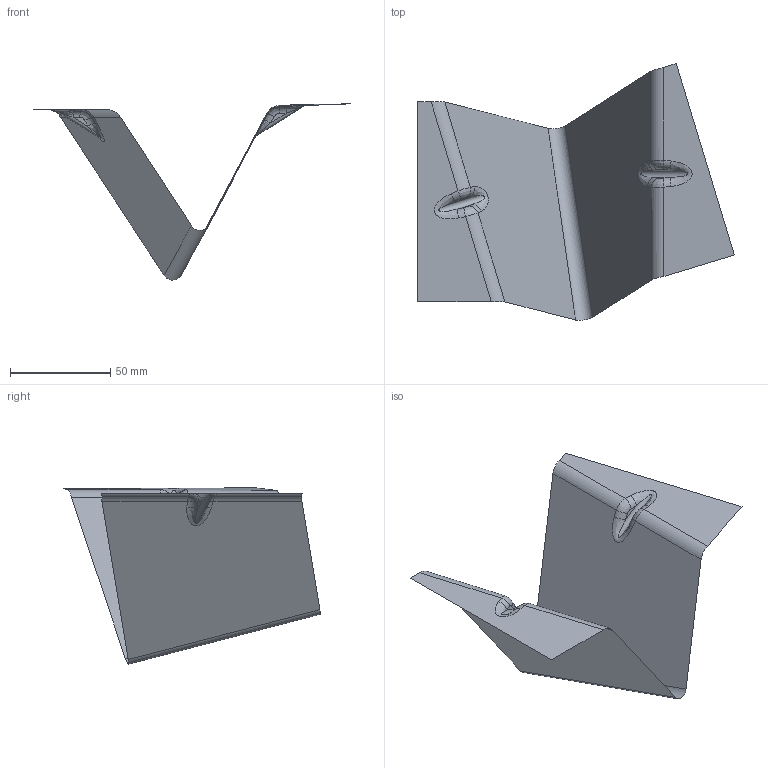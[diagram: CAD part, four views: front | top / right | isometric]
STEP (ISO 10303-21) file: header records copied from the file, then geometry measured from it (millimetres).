
FILE_DESCRIPTION(('CATIA V5 STEP Exchange'),'2;1');
FILE_NAME('C:\_Andres\UNIVERSIDAD\IQS\ASIGNATURAS\DAO\EXF\EXF-16172c\2inicio\Homs_Ruano_Ej03_v15.stp','2017-03-05T19:32:17+00:00',('none'),('none'),'CATIA Version 5-6 Release 2014 SP1 HF18','CATIA V5 STEP AP203','none');
FILE_SCHEMA(('CONFIG_CONTROL_DESIGN'));
Length unit declared in the file: millimetre
Products named in the file (1): Homs_Ruano_Ej03_v15
Bounding box: 158.23 x 128.29 x 88.18 mm (x, y, z)
Surface area: 23305.4 mm2 (no closed solid volume)
Topology: 0 solids, 1 shells, 31 faces, 78 edges, 48 vertices
Faces by surface type: cylinder 15, plane 8, bspline 8
Entity records: 2473 total; most frequent: CARTESIAN_POINT 1800, ORIENTED_EDGE 140, DIRECTION 90, EDGE_CURVE 78, VERTEX_POINT 48, VECTOR 40, LINE 40, ADVANCED_FACE 31
